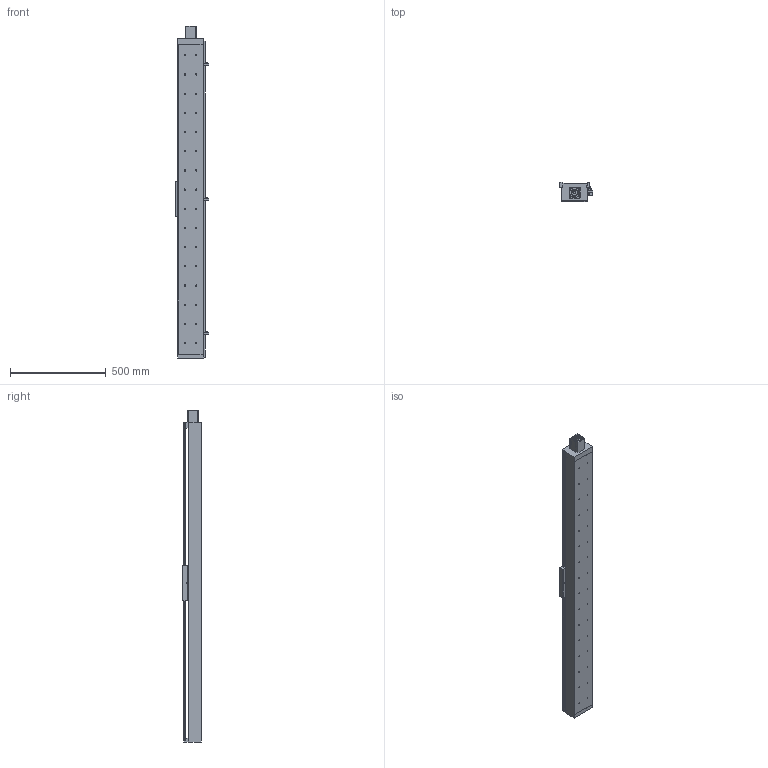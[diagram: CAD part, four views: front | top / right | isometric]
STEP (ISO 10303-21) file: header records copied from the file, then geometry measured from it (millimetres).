
FILE_DESCRIPTION((''),'2;1');
FILE_NAME('E:\libraries\UIA actuator library 2009\standard actuator\UIA136 ball screw 25\UIA136R15NDC-_ _ _-R25_ _, stp file 27Apr16\UIA136R15NDC-1400-R25_ _-M60-P13-C10-S.stp','2016-04-28T17:37:15',('h029'),(''),'Autodesk Inventor 11','Autodesk Inventor 11','');
FILE_SCHEMA(('AUTOMOTIVE_DESIGN { 1 0 10303 214 1 1 1 1 }'));
Length unit declared in the file: millimetre
Products named in the file (10): UIA136R15NDC-1400; UIA136R15NDC-body; motor mount F60; SOH-32C; SOH-32C-3; SOH-32C-1; SOH-32C-2; Carriage; Sensor Switch; sensor rail
Assembly tree (9 placements, depth 3):
  UIA136R15NDC-1400
    UIA136R15NDC-body
    motor mount F60
    SOH-32C
      SOH-32C-3
      SOH-32C-1
      SOH-32C-2
    Carriage
    Sensor Switch
    sensor rail
Bounding box: 174.5 x 98 x 1730 mm (x, y, z)
Volume: 6140633.2 mm3; surface area: 1758734.1 mm2
Topology: 8 solids, 8 shells, 556 faces, 1439 edges, 942 vertices
Faces by surface type: plane 324, bspline 182, cylinder 46, cone 4
Full cylindrical faces by diameter (mm): 2.459 x2, 3.242 x2, 4.5 x2, 7 x4, 7.5 x2, 14 x3, 17 x1, 32 x3, 37 x1, 50.3 x1, 50.5 x1
Entity records: 18180 total; most frequent: CARTESIAN_POINT 5492, ORIENTED_EDGE 2424, DIRECTION 2378, EDGE_CURVE 1212, EDGE_LOOP 880, VERTEX_POINT 878, VECTOR 816, LINE 816
